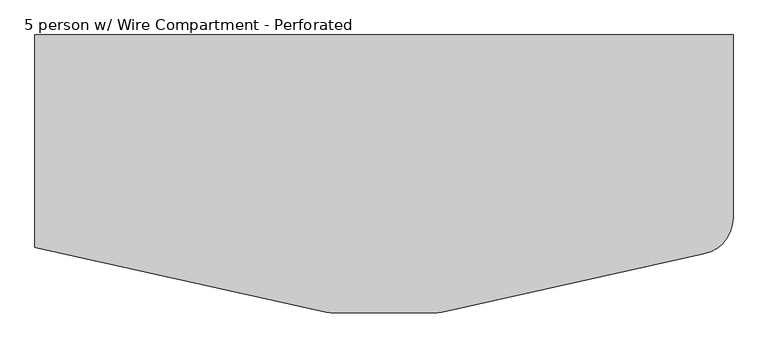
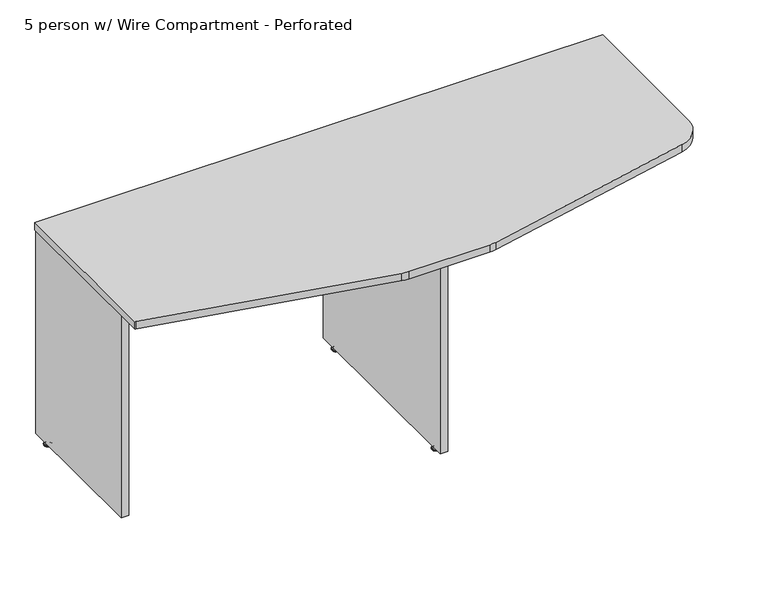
"""IFC4 building model written with IfcOpenShell, lengths in millimetres: furniture geometry, Nova Solutions - Collaboration Table - Boat_4-6 person : 5 person w/ Wire Compartment - Perforated."""

import ifcopenshell
import ifcopenshell.guid

model = None  # the IFC model being written
_history = None  # IfcOwnerHistory: only IFC2X3 demands one
_inside = {}  # id of a spatial element -> (the spatial element, [elements in it])
_under = {}  # id of a project, library or spatial element -> (it, [spatial elements below it])
_declared = {}  # id of a project -> (the project, [libraries it declares])
_typed = {}  # id of a type object -> (the type object, [elements of that type])
_made_of = {}  # id of a material, layer set ... -> (it, [elements and type objects made of it])


def new_model(schema):
    """Start an empty IFC model of exactly this schema.

    Asked for "IFC4X3", IfcOpenShell would pick the latest addendum, in which some entities
    have other attributes; the version numbers below select the first issue.
    IFC2X3 requires an IfcOwnerHistory on every rooted entity: one is made here for all.
    """
    global model, _history
    if schema == "IFC4X3":
        model = ifcopenshell.file(schema_version=(4, 3, 0, 0))
    else:
        model = ifcopenshell.file(schema=schema)
    _inside.clear()
    _under.clear()
    _declared.clear()
    _typed.clear()
    _made_of.clear()
    _history = None
    if model.schema == "IFC2X3":
        org = make("IfcOrganization", Name="unknown")
        user = make(
            "IfcPersonAndOrganization",
            ThePerson=make("IfcPerson", FamilyName="unknown"),
            TheOrganization=org,
        )
        app = make(
            "IfcApplication",
            ApplicationDeveloper=org,
            Version="unknown",
            ApplicationFullName="unknown",
            ApplicationIdentifier="unknown",
        )
        _history = make(
            "IfcOwnerHistory",
            OwningUser=user,
            OwningApplication=app,
            ChangeAction="ADDED",
            CreationDate=0,
        )
    return model


def make(cls, **values):
    """One entity of the class cls with the attributes given. An attribute that is None is left unset."""
    return model.create_entity(
        cls, **{name: value for name, value in values.items() if value is not None}
    )


def rooted(cls, **values):
    """An entity with a GlobalId (a new one), such as an element, a storey or a relation."""
    return make(cls, GlobalId=ifcopenshell.guid.new(), OwnerHistory=_history, **values)


def si_unit(unit_type, name, prefix=None):
    """IfcSIUnit, for example si_unit("LENGTHUNIT", "METRE", prefix="MILLI")."""
    return make("IfcSIUnit", UnitType=unit_type, Prefix=prefix, Name=name)


def assignment(units):
    """IfcUnitAssignment: the units of a project."""
    return None if units is None else make("IfcUnitAssignment", Units=units)


def point(xyz):
    """IfcCartesianPoint."""
    return None if xyz is None else make("IfcCartesianPoint", Coordinates=xyz)


def direction(xyz):
    """IfcDirection."""
    return None if xyz is None else make("IfcDirection", DirectionRatios=xyz)


def frame(location, z_axis=None, x_axis=None):
    """IfcAxis2Placement3D, a coordinate frame: its origin and axes. An axis left out is left unset."""
    return make(
        "IfcAxis2Placement3D",
        Location=point(location),
        Axis=direction(z_axis),
        RefDirection=direction(x_axis),
    )


def frame_2d(location, x_axis=None):
    """IfcAxis2Placement2D, a coordinate frame in the plane: its origin and x axis."""
    return make(
        "IfcAxis2Placement2D", Location=point(location), RefDirection=direction(x_axis)
    )


def origin():
    """The frame at (0, 0, 0) with its axes left unset."""
    return frame((0.0, 0.0, 0.0))


def place(relative_to, where):
    """IfcLocalPlacement: puts the frame where relative to a parent placement (None: the world)."""
    return make(
        "IfcLocalPlacement", PlacementRelTo=relative_to, RelativePlacement=where
    )


def context(
    kind, dimensions, precision=None, world=None, true_north=None, identifier=None
):
    """IfcGeometricRepresentationContext, for example the 3D "Model" context."""
    return make(
        "IfcGeometricRepresentationContext",
        ContextIdentifier=identifier,
        ContextType=kind,
        CoordinateSpaceDimension=dimensions,
        Precision=precision,
        WorldCoordinateSystem=world,
        TrueNorth=true_north,
    )


def project(units=None, contexts=None):
    """IfcProject with its units and contexts."""
    return rooted(
        "IfcProject",
        Name="project",
        RepresentationContexts=contexts,
        UnitsInContext=assignment(units),
    )


def spatial(cls, under=None, at=None, **own):
    """A site, building, storey or space (cls), placed at a placement, below another one or the project."""
    s = rooted(cls, ObjectPlacement=at, **own)
    if under is not None:
        _under.setdefault(under.id(), (under, []))[1].append(s)
    return s


def polyline(points):
    """IfcPolyline through the points."""
    return make("IfcPolyline", Points=[point(p) for p in points])


def circle_curve(where, radius):
    """IfcCircle in the frame where."""
    return make("IfcCircle", Position=where, Radius=radius)


def ellipse_curve(where, semi_axis1, semi_axis2):
    """IfcEllipse in the frame where."""
    return make(
        "IfcEllipse", Position=where, SemiAxis1=semi_axis1, SemiAxis2=semi_axis2
    )


def trimmed(basis, trim1, trim2, sense, master):
    """IfcTrimmedCurve: the piece of a basis curve between two trims."""
    return make(
        "IfcTrimmedCurve",
        BasisCurve=basis,
        Trim1=trim1,
        Trim2=trim2,
        SenseAgreement=sense,
        MasterRepresentation=master,
    )


def segment(curve, same_sense, transition):
    """IfcCompositeCurveSegment."""
    return make(
        "IfcCompositeCurveSegment",
        Transition=transition,
        SameSense=same_sense,
        ParentCurve=curve,
    )


def composite_curve(segments, self_intersect=None):
    """IfcCompositeCurve: segments joined end to end."""
    return make("IfcCompositeCurve", Segments=segments, SelfIntersect=self_intersect)


def outline(outer, holes=None, kind="AREA"):
    """IfcArbitraryClosedProfileDef: a profile drawn as a closed curve; with holes, ...WithVoids."""
    if holes is None:
        return make("IfcArbitraryClosedProfileDef", ProfileType=kind, OuterCurve=outer)
    return make(
        "IfcArbitraryProfileDefWithVoids",
        ProfileType=kind,
        OuterCurve=outer,
        InnerCurves=holes,
    )


def extrude(swept, where, along, depth):
    """IfcExtrudedAreaSolid: the profile swept, set in the frame where, extruded along a direction by depth."""
    return make(
        "IfcExtrudedAreaSolid",
        SweptArea=swept,
        Position=where,
        ExtrudedDirection=direction(along),
        Depth=depth,
    )


def shape(context_of_items, identifier, shape_type, items):
    """IfcShapeRepresentation: the items that make up one representation, for example the "Body"."""
    return make(
        "IfcShapeRepresentation",
        ContextOfItems=context_of_items,
        RepresentationIdentifier=identifier,
        RepresentationType=shape_type,
        Items=items,
    )


def source(mapping_origin, context_of_items, identifier, shape_type, items):
    """IfcRepresentationMap: a shape defined once, which mapped items show again and again."""
    return make(
        "IfcRepresentationMap",
        MappingOrigin=mapping_origin,
        MappedRepresentation=shape(context_of_items, identifier, shape_type, items),
    )


def transform(
    local_origin,
    x_axis=None,
    y_axis=None,
    z_axis=None,
    scale=None,
    scale2=None,
    scale3=None,
    uniform=True,
):
    """IfcCartesianTransformationOperator3D, or its non-uniform kind. x_axis, y_axis, z_axis: its Axis1, 2, 3."""
    if uniform:
        return make(
            "IfcCartesianTransformationOperator3D",
            Axis1=direction(x_axis),
            Axis2=direction(y_axis),
            LocalOrigin=point(local_origin),
            Scale=scale,
            Axis3=direction(z_axis),
        )
    return make(
        "IfcCartesianTransformationOperator3DnonUniform",
        Axis1=direction(x_axis),
        Axis2=direction(y_axis),
        LocalOrigin=point(local_origin),
        Scale=scale,
        Axis3=direction(z_axis),
        Scale2=scale2,
        Scale3=scale3,
    )


def mapped(mapping_source, mapping_target):
    """IfcMappedItem: shows the shape of a source again, moved by a transform."""
    return make(
        "IfcMappedItem", MappingSource=mapping_source, MappingTarget=mapping_target
    )


def made_of(thing, what):
    """Note that an element or type object is made of a material, layer set ...; save() writes the relation."""
    if what is not None:
        _made_of.setdefault(what.id(), (what, []))[1].append(thing)
    return thing


def element(
    cls,
    number,
    at=None,
    inside=None,
    cuts=None,
    type_object=None,
    material=None,
    context=None,
    identifier="Body",
    shape_type=None,
    held_by="IfcProductDefinitionShape",
    body=None,
    shapes=None,
    **own,
):
    """One element of the class cls, such as IfcWall. Its Tag is "e" and its number.

    at: its placement. inside: the storey or other place that contains it. cuts: it is an
    opening in that element (IfcRelVoidsElement). A single representation is given by context,
    identifier, shape_type and body (its items); several are given by shapes. held_by: the class
    of the entity that holds the representations. save() writes the other relations.
    """
    e = rooted(cls, Tag="e%d" % number, ObjectPlacement=at, **own)
    if body is not None:
        shapes = [shape(context, identifier, shape_type, body)]
    if shapes is not None:
        e.Representation = make(held_by, Representations=shapes)
    if inside is not None:
        _inside.setdefault(inside.id(), (inside, []))[1].append(e)
    if cuts is not None:
        rooted(
            "IfcRelVoidsElement", RelatingBuildingElement=cuts, RelatedOpeningElement=e
        )
    if type_object is not None:
        _typed.setdefault(type_object.id(), (type_object, []))[1].append(e)
    return made_of(e, material)


def aggregate(whole, parts):
    """IfcRelAggregates: a whole, such as a stair, and the parts it consists of."""
    return rooted("IfcRelAggregates", RelatingObject=whole, RelatedObjects=parts)


def save(model, path):
    """Write the relations noted so far, then the file.

    IfcRelAggregates (storeys below a building ...), IfcRelContainedInSpatialStructure (elements
    in a storey), IfcRelDefinesByType, IfcRelAssociatesMaterial and IfcRelDeclares: one each for
    every whole, place, type object, material and project.
    """
    for whole, parts in _under.values():
        aggregate(whole, parts)
    for where, things in _inside.values():
        rooted(
            "IfcRelContainedInSpatialStructure",
            RelatedElements=things,
            RelatingStructure=where,
        )
    for kind, things in _typed.values():
        rooted("IfcRelDefinesByType", RelatedObjects=things, RelatingType=kind)
    for what, things in _made_of.values():
        rooted("IfcRelAssociatesMaterial", RelatedObjects=things, RelatingMaterial=what)
    for by, libraries in _declared.values():
        rooted("IfcRelDeclares", RelatingContext=by, RelatedDefinitions=libraries)
    model.write(path)


def plane_surface(at):
    """IfcPlane: the flat surface through the origin of the frame at, square to its z axis."""
    return make("IfcPlane", Position=at)


def cylinder_surface(at, radius):
    """IfcCylindricalSurface: all points at the distance radius from the z axis of the frame at."""
    return make("IfcCylindricalSurface", Position=at, Radius=radius)


def revolved_surface(curve, axis_point, axis_direction):
    """IfcSurfaceOfRevolution: the curve turned about the line through axis_point along axis_direction."""
    return make(
        "IfcSurfaceOfRevolution",
        SweptCurve=make("IfcArbitraryOpenProfileDef", ProfileType="CURVE", Curve=curve),
        AxisPosition=make("IfcAxis1Placement", Location=point(axis_point), Axis=direction(axis_direction)),
    )


def advanced_brep(points, edges, surfaces, faces):
    """IfcAdvancedBrep: a solid bounded by faces that lie on surfaces and meet in shared edges.

    An edge is (start, end): straight between two places in points (the first is 0);
    or (start, end, curve); or (start, end, curve, False) where it runs against its curve.
    A face is (place in surfaces, loops), or (place, loops, False) where it looks against
    its surface's normal. A loop lists edges by number (the first is 1), with a minus sign
    where the edge is run from its end to its start. The first loop is the outer one.
    """
    corners = [point(p) for p in points]
    vertices = [make("IfcVertexPoint", VertexGeometry=c) for c in corners]
    made = []
    for start, end, *more in edges:
        made.append(
            make(
                "IfcEdgeCurve",
                EdgeStart=vertices[start],
                EdgeEnd=vertices[end],
                EdgeGeometry=more[0] if more else make("IfcPolyline", Points=[corners[start], corners[end]]),
                SameSense=more[1] if len(more) > 1 else True,
            )
        )
    hull = []
    for where, loops, *sense in faces:
        bounds = []
        for j, loop in enumerate(loops):
            ring = [make("IfcOrientedEdge", EdgeElement=made[abs(k) - 1], Orientation=k > 0) for k in loop]
            bounds.append(
                make(
                    "IfcFaceOuterBound" if j == 0 else "IfcFaceBound",
                    Bound=make("IfcEdgeLoop", EdgeList=ring),
                    Orientation=True,
                )
            )
        hull.append(make("IfcAdvancedFace", Bounds=bounds, FaceSurface=surfaces[where], SameSense=sense[0] if sense else True))
    return make("IfcAdvancedBrep", Outer=make("IfcClosedShell", CfsFaces=hull))


def furniture_5_person_w_wire_compartment_perforated_82e77ec8(model_context):
    return source(origin(), model_context, "Body", "SolidModel", [
        advanced_brep(
        [(-971.6776506, -50.4140625, 11.1125), (-965.0, -50.4140625, 11.1125), (-958.3223494, -50.4140625, 11.1125), (-971.6776506, -50.4140625, 9.525), (-958.3223494, -50.4140625, 9.525), (-976.8855135, -50.4140625, 4.7748687), (-953.1144865, -50.4140625, 4.7748687), (-977.7466506, -50.4140625, 3.989419), (-952.2533494, -50.4140625, 3.989419), (-977.7466506, -50.4140625, 3.175), (-952.2533494, -50.4140625, 3.175), (-976.8959119, -50.4140625, 0.0), (-953.1040881, -50.4140625, 0.0), (-965.0, -50.4140625, 0.0)],
        [
            (0, 1),
            (1, 2),
            (2, 0, circle_curve(frame((-965.0, -50.4140625, 11.1125), z_axis=(0.0, 0.0, 1.0), x_axis=(1.0, 0.0, 0.0)), 6.6776506)),
            (0, 2, circle_curve(frame((-965.0, -50.4140625, 11.1125), z_axis=(0.0, 0.0, 1.0), x_axis=(1.0, 0.0, 0.0)), 6.6776506)),
            (3, 0),
            (2, 4),
            (4, 3, circle_curve(frame((-965.0, -50.4140625, 9.525), z_axis=(0.0, 0.0, 1.0), x_axis=(1.0, 0.0, 0.0)), 6.6776506)),
            (3, 4, circle_curve(frame((-965.0, -50.4140625, 9.525), z_axis=(0.0, 0.0, 1.0), x_axis=(1.0, 0.0, 0.0)), 6.6776506)),
            (5, 3, circle_curve(frame((-977.9320627, -50.4140625, 11.1521822), z_axis=(0.0, -1.0, 0.0), x_axis=(1.0, 0.0, 0.0)), 6.462615)),
            (4, 6, circle_curve(frame((-952.0679373, -50.4140625, 11.1521822), z_axis=(0.0, -1.0, 0.0), x_axis=(-1.0, 0.0, 0.0)), 6.462615)),
            (6, 5, circle_curve(frame((-965.0, -50.4140625, 4.7748687), z_axis=(0.0, 0.0, 1.0), x_axis=(1.0, 0.0, 0.0)), 11.8855135)),
            (5, 6, circle_curve(frame((-965.0, -50.4140625, 4.7748687), z_axis=(0.0, 0.0, 1.0), x_axis=(1.0, 0.0, 0.0)), 11.8855135)),
            (7, 5, circle_curve(frame((-976.7124632, -50.4140625, 3.7203591), z_axis=(0.0, 1.0, 0.0), x_axis=(1.0, 0.0, 0.0)), 1.0686145)),
            (6, 8, circle_curve(frame((-953.2875368, -50.4140625, 3.7203591), z_axis=(0.0, 1.0, 0.0), x_axis=(-1.0, 0.0, 0.0)), 1.0686145)),
            (8, 7, circle_curve(frame((-965.0, -50.4140625, 3.989419), z_axis=(0.0, 0.0, 1.0), x_axis=(1.0, 0.0, 0.0)), 12.7466506)),
            (7, 8, circle_curve(frame((-965.0, -50.4140625, 3.989419), z_axis=(0.0, 0.0, 1.0), x_axis=(1.0, 0.0, 0.0)), 12.7466506)),
            (9, 7),
            (8, 10),
            (10, 9, circle_curve(frame((-965.0, -50.4140625, 3.175), z_axis=(0.0, 0.0, 1.0), x_axis=(1.0, 0.0, 0.0)), 12.7466506)),
            (9, 10, circle_curve(frame((-965.0, -50.4140625, 3.175), z_axis=(0.0, 0.0, 1.0), x_axis=(1.0, 0.0, 0.0)), 12.7466506)),
            (11, 9),
            (10, 12),
            (12, 11, circle_curve(frame((-965.0, -50.4140625, 0.0), z_axis=(0.0, 0.0, 1.0), x_axis=(1.0, 0.0, 0.0)), 11.8959119)),
            (11, 12, circle_curve(frame((-965.0, -50.4140625, 0.0), z_axis=(0.0, 0.0, 1.0), x_axis=(1.0, 0.0, 0.0)), 11.8959119)),
            (13, 11),
            (12, 13),
        ],
        [
            plane_surface(frame((-965.0, -50.4140625, 11.1125), z_axis=(0.0, 0.0, 1.0), x_axis=(1.0, 0.0, 0.0))),
            cylinder_surface(frame((-965.0, -50.4140625, 43.2095994), z_axis=(0.0, 0.0, -1.0), x_axis=(1.0, 0.0, 0.0)), 6.6776506),
            revolved_surface(trimmed(ellipse_curve(frame((-952.0679373, -50.4140625, 11.1521822), z_axis=(0.0, -1.0, 0.0), x_axis=(-1.0, 0.0, 0.0)), 6.462615, 6.462615), [point((-958.3223494, -50.4140625, 9.525))], [point((-953.1144865, -50.4140625, 4.7748687))], True, "CARTESIAN"), (-965.0, -50.4140625, 43.2095994), (0.0, 0.0, -1.0)),
            revolved_surface(trimmed(ellipse_curve(frame((-953.2875368, -50.4140625, 3.7203591), z_axis=(0.0, 1.0, 0.0), x_axis=(-1.0, 0.0, 0.0)), 1.0686145, 1.0686145), [point((-953.1144865, -50.4140625, 4.7748687))], [point((-952.2533494, -50.4140625, 3.989419))], True, "CARTESIAN"), (-965.0, -50.4140625, 43.2095994), (0.0, 0.0, -1.0)),
            cylinder_surface(frame((-965.0, -50.4140625, 43.2095994), z_axis=(0.0, 0.0, -1.0), x_axis=(1.0, 0.0, 0.0)), 12.7466506),
            revolved_surface(polyline([(-952.2533494, -50.4140625, 3.175), (-953.1040881, -50.4140625, 0.0)]), (-965.0, -50.4140625, 43.2095994), (0.0, 0.0, -1.0)),
            plane_surface(frame((-965.0, -50.4140625, 0.0), z_axis=(0.0, 0.0, -1.0), x_axis=(1.0, 0.0, 0.0))),
        ],
        [
            (0, [[1, 2, 3]]),
            (0, [[-2, -1, 4]]),
            (1, [[5, -3, 6, 7]]),
            (1, [[-6, -4, -5, 8]]),
            (2, [[9, -7, 10, 11]]),
            (2, [[-10, -8, -9, 12]]),
            (3, [[13, -11, 14, 15]]),
            (3, [[-14, -12, -13, 16]]),
            (4, [[17, -15, 18, 19]]),
            (4, [[-18, -16, -17, 20]]),
            (5, [[21, -19, 22, 23]]),
            (5, [[-22, -20, -21, 24]]),
            (6, [[25, -23, 26]]),
            (6, [[-26, -24, -25]]),
        ],
    ),
        extrude(outline(polyline([(-977.85, -1.4), (-952.15, -1.4), (-952.15, -498.0), (-977.85, -498.0), (-977.85, -1.4)])), frame((0.0, 0.0, 15.6), z_axis=(0.0, 0.0, 1.0), x_axis=(1.0, 0.0, 0.0)), (0.0, 0.0, 1.0), 720.7),
        advanced_brep(
        [(6.6776506, -631.3859375, 11.1125), (-6.6776506, -631.3859375, 11.1125), (0.0, -631.3859375, 11.1125), (6.6776506, -631.3859375, 9.525), (-6.6776506, -631.3859375, 9.525), (11.8855135, -631.3859375, 4.7748687), (-11.8855135, -631.3859375, 4.7748687), (12.7466506, -631.3859375, 3.989419), (-12.7466506, -631.3859375, 3.989419), (12.7466506, -631.3859375, 3.175), (-12.7466506, -631.3859375, 3.175), (11.8959119, -631.3859375, 0.0), (-11.8959119, -631.3859375, 0.0), (0.0, -631.3859375, 0.0)],
        [
            (0, 1, circle_curve(frame((0.0, -631.3859375, 11.1125), z_axis=(0.0, 0.0, 1.0), x_axis=(-1.0, 0.0, 0.0)), 6.6776506)),
            (1, 2),
            (2, 0),
            (1, 0, circle_curve(frame((0.0, -631.3859375, 11.1125), z_axis=(0.0, 0.0, 1.0), x_axis=(-1.0, 0.0, 0.0)), 6.6776506)),
            (3, 4, circle_curve(frame((0.0, -631.3859375, 9.525), z_axis=(0.0, 0.0, 1.0), x_axis=(-1.0, 0.0, 0.0)), 6.6776506)),
            (4, 1),
            (0, 3),
            (4, 3, circle_curve(frame((0.0, -631.3859375, 9.525), z_axis=(0.0, 0.0, 1.0), x_axis=(-1.0, 0.0, 0.0)), 6.6776506)),
            (5, 6, circle_curve(frame((0.0, -631.3859375, 4.7748687), z_axis=(0.0, 0.0, 1.0), x_axis=(-1.0, 0.0, 0.0)), 11.8855135)),
            (6, 4, circle_curve(frame((-12.9320627, -631.3859375, 11.1521822), z_axis=(0.0, -1.0, 0.0), x_axis=(1.0, 0.0, 0.0)), 6.462615)),
            (3, 5, circle_curve(frame((12.9320627, -631.3859375, 11.1521822), z_axis=(0.0, -1.0, 0.0), x_axis=(-1.0, 0.0, 0.0)), 6.462615)),
            (6, 5, circle_curve(frame((0.0, -631.3859375, 4.7748687), z_axis=(0.0, 0.0, 1.0), x_axis=(-1.0, 0.0, 0.0)), 11.8855135)),
            (7, 8, circle_curve(frame((0.0, -631.3859375, 3.989419), z_axis=(0.0, 0.0, 1.0), x_axis=(-1.0, 0.0, 0.0)), 12.7466506)),
            (8, 6, circle_curve(frame((-11.7124632, -631.3859375, 3.7203591), z_axis=(0.0, 1.0, 0.0), x_axis=(1.0, 0.0, 0.0)), 1.0686145)),
            (5, 7, circle_curve(frame((11.7124632, -631.3859375, 3.7203591), z_axis=(0.0, 1.0, 0.0), x_axis=(-1.0, 0.0, 0.0)), 1.0686145)),
            (8, 7, circle_curve(frame((0.0, -631.3859375, 3.989419), z_axis=(0.0, 0.0, 1.0), x_axis=(-1.0, 0.0, 0.0)), 12.7466506)),
            (9, 10, circle_curve(frame((0.0, -631.3859375, 3.175), z_axis=(0.0, 0.0, 1.0), x_axis=(-1.0, 0.0, 0.0)), 12.7466506)),
            (10, 8),
            (7, 9),
            (10, 9, circle_curve(frame((0.0, -631.3859375, 3.175), z_axis=(0.0, 0.0, 1.0), x_axis=(-1.0, 0.0, 0.0)), 12.7466506)),
            (11, 12, circle_curve(frame((0.0, -631.3859375, 0.0), z_axis=(0.0, 0.0, 1.0), x_axis=(-1.0, 0.0, 0.0)), 11.8959119)),
            (12, 10),
            (9, 11),
            (12, 11, circle_curve(frame((0.0, -631.3859375, 0.0), z_axis=(0.0, 0.0, 1.0), x_axis=(-1.0, 0.0, 0.0)), 11.8959119)),
            (13, 12),
            (11, 13),
        ],
        [
            plane_surface(frame((0.0, -631.3859375, 11.1125), z_axis=(0.0, 0.0, 1.0), x_axis=(-1.0, 0.0, 0.0))),
            cylinder_surface(frame((0.0, -631.3859375, 43.2095994), z_axis=(0.0, 0.0, -1.0), x_axis=(-1.0, 0.0, 0.0)), 6.6776506),
            revolved_surface(trimmed(ellipse_curve(frame((-12.9320627, -631.3859375, 11.1521822), z_axis=(0.0, 1.0, 0.0), x_axis=(1.0, 0.0, 0.0)), 6.462615, 6.462615), [point((-6.6776506, -631.3859375, 9.525))], [point((-11.8855135, -631.3859375, 4.7748687))], True, "CARTESIAN"), (0.0, -631.3859375, 43.2095994), (0.0, 0.0, -1.0)),
            revolved_surface(trimmed(ellipse_curve(frame((-11.7124632, -631.3859375, 3.7203591), z_axis=(0.0, -1.0, 0.0), x_axis=(1.0, 0.0, 0.0)), 1.0686145, 1.0686145), [point((-11.8855135, -631.3859375, 4.7748687))], [point((-12.7466506, -631.3859375, 3.989419))], True, "CARTESIAN"), (0.0, -631.3859375, 43.2095994), (0.0, 0.0, -1.0)),
            cylinder_surface(frame((0.0, -631.3859375, 43.2095994), z_axis=(0.0, 0.0, -1.0), x_axis=(-1.0, 0.0, 0.0)), 12.7466506),
            revolved_surface(polyline([(-12.7466506, -631.3859375, 3.175), (-11.8959119, -631.3859375, 0.0)]), (0.0, -631.3859375, 43.2095994), (0.0, 0.0, -1.0)),
            plane_surface(frame((0.0, -631.3859375, 0.0), z_axis=(0.0, 0.0, -1.0), x_axis=(-1.0, 0.0, 0.0))),
        ],
        [
            (0, [[1, 2, 3]]),
            (0, [[4, -3, -2]]),
            (1, [[5, 6, -1, 7]]),
            (1, [[8, -7, -4, -6]]),
            (2, [[9, 10, -5, 11]]),
            (2, [[12, -11, -8, -10]]),
            (3, [[13, 14, -9, 15]]),
            (3, [[16, -15, -12, -14]]),
            (4, [[17, 18, -13, 19]]),
            (4, [[20, -19, -16, -18]]),
            (5, [[21, 22, -17, 23]]),
            (5, [[24, -23, -20, -22]]),
            (6, [[25, -21, 26]]),
            (6, [[-26, -24, -25]]),
        ],
    ),
        advanced_brep(
        [(6.6776506, -50.4140625, 11.1125), (-6.6776506, -50.4140625, 11.1125), (0.0, -50.4140625, 11.1125), (6.6776506, -50.4140625, 9.525), (-6.6776506, -50.4140625, 9.525), (11.8855135, -50.4140625, 4.7748687), (-11.8855135, -50.4140625, 4.7748687), (12.7466506, -50.4140625, 3.989419), (-12.7466506, -50.4140625, 3.989419), (12.7466506, -50.4140625, 3.175), (-12.7466506, -50.4140625, 3.175), (11.8959119, -50.4140625, 0.0), (-11.8959119, -50.4140625, 0.0), (0.0, -50.4140625, 0.0)],
        [
            (0, 1, circle_curve(frame((0.0, -50.4140625, 11.1125), z_axis=(0.0, 0.0, 1.0), x_axis=(-1.0, 0.0, 0.0)), 6.6776506)),
            (1, 2),
            (2, 0),
            (1, 0, circle_curve(frame((0.0, -50.4140625, 11.1125), z_axis=(0.0, 0.0, 1.0), x_axis=(-1.0, 0.0, 0.0)), 6.6776506)),
            (3, 4, circle_curve(frame((0.0, -50.4140625, 9.525), z_axis=(0.0, 0.0, 1.0), x_axis=(-1.0, 0.0, 0.0)), 6.6776506)),
            (4, 1),
            (0, 3),
            (4, 3, circle_curve(frame((0.0, -50.4140625, 9.525), z_axis=(0.0, 0.0, 1.0), x_axis=(-1.0, 0.0, 0.0)), 6.6776506)),
            (5, 6, circle_curve(frame((0.0, -50.4140625, 4.7748687), z_axis=(0.0, 0.0, 1.0), x_axis=(-1.0, 0.0, 0.0)), 11.8855135)),
            (6, 4, circle_curve(frame((-12.9320627, -50.4140625, 11.1521822), z_axis=(0.0, -1.0, 0.0), x_axis=(1.0, 0.0, 0.0)), 6.462615)),
            (3, 5, circle_curve(frame((12.9320627, -50.4140625, 11.1521822), z_axis=(0.0, -1.0, 0.0), x_axis=(-1.0, 0.0, 0.0)), 6.462615)),
            (6, 5, circle_curve(frame((0.0, -50.4140625, 4.7748687), z_axis=(0.0, 0.0, 1.0), x_axis=(-1.0, 0.0, 0.0)), 11.8855135)),
            (7, 8, circle_curve(frame((0.0, -50.4140625, 3.989419), z_axis=(0.0, 0.0, 1.0), x_axis=(-1.0, 0.0, 0.0)), 12.7466506)),
            (8, 6, circle_curve(frame((-11.7124632, -50.4140625, 3.7203591), z_axis=(0.0, 1.0, 0.0), x_axis=(1.0, 0.0, 0.0)), 1.0686145)),
            (5, 7, circle_curve(frame((11.7124632, -50.4140625, 3.7203591), z_axis=(0.0, 1.0, 0.0), x_axis=(-1.0, 0.0, 0.0)), 1.0686145)),
            (8, 7, circle_curve(frame((0.0, -50.4140625, 3.989419), z_axis=(0.0, 0.0, 1.0), x_axis=(-1.0, 0.0, 0.0)), 12.7466506)),
            (9, 10, circle_curve(frame((0.0, -50.4140625, 3.175), z_axis=(0.0, 0.0, 1.0), x_axis=(-1.0, 0.0, 0.0)), 12.7466506)),
            (10, 8),
            (7, 9),
            (10, 9, circle_curve(frame((0.0, -50.4140625, 3.175), z_axis=(0.0, 0.0, 1.0), x_axis=(-1.0, 0.0, 0.0)), 12.7466506)),
            (11, 12, circle_curve(frame((0.0, -50.4140625, 0.0), z_axis=(0.0, 0.0, 1.0), x_axis=(-1.0, 0.0, 0.0)), 11.8959119)),
            (12, 10),
            (9, 11),
            (12, 11, circle_curve(frame((0.0, -50.4140625, 0.0), z_axis=(0.0, 0.0, 1.0), x_axis=(-1.0, 0.0, 0.0)), 11.8959119)),
            (13, 12),
            (11, 13),
        ],
        [
            plane_surface(frame((0.0, -50.4140625, 11.1125), z_axis=(0.0, 0.0, 1.0), x_axis=(-1.0, 0.0, 0.0))),
            cylinder_surface(frame((0.0, -50.4140625, 43.2095994), z_axis=(0.0, 0.0, -1.0), x_axis=(-1.0, 0.0, 0.0)), 6.6776506),
            revolved_surface(trimmed(ellipse_curve(frame((-12.9320627, -50.4140625, 11.1521822), z_axis=(0.0, 1.0, 0.0), x_axis=(1.0, 0.0, 0.0)), 6.462615, 6.462615), [point((-6.6776506, -50.4140625, 9.525))], [point((-11.8855135, -50.4140625, 4.7748687))], True, "CARTESIAN"), (0.0, -50.4140625, 43.2095994), (0.0, 0.0, -1.0)),
            revolved_surface(trimmed(ellipse_curve(frame((-11.7124632, -50.4140625, 3.7203591), z_axis=(0.0, -1.0, 0.0), x_axis=(1.0, 0.0, 0.0)), 1.0686145, 1.0686145), [point((-11.8855135, -50.4140625, 4.7748687))], [point((-12.7466506, -50.4140625, 3.989419))], True, "CARTESIAN"), (0.0, -50.4140625, 43.2095994), (0.0, 0.0, -1.0)),
            cylinder_surface(frame((0.0, -50.4140625, 43.2095994), z_axis=(0.0, 0.0, -1.0), x_axis=(-1.0, 0.0, 0.0)), 12.7466506),
            revolved_surface(polyline([(-12.7466506, -50.4140625, 3.175), (-11.8959119, -50.4140625, 0.0)]), (0.0, -50.4140625, 43.2095994), (0.0, 0.0, -1.0)),
            plane_surface(frame((0.0, -50.4140625, 0.0), z_axis=(0.0, 0.0, -1.0), x_axis=(-1.0, 0.0, 0.0))),
        ],
        [
            (0, [[1, 2, 3]]),
            (0, [[4, -3, -2]]),
            (1, [[5, 6, -1, 7]]),
            (1, [[8, -7, -4, -6]]),
            (2, [[9, 10, -5, 11]]),
            (2, [[12, -11, -8, -10]]),
            (3, [[13, 14, -9, 15]]),
            (3, [[16, -15, -12, -14]]),
            (4, [[17, 18, -13, 19]]),
            (4, [[20, -19, -16, -18]]),
            (5, [[21, 22, -17, 23]]),
            (5, [[24, -23, -20, -22]]),
            (6, [[25, -21, 26]]),
            (6, [[-26, -24, -25]]),
        ],
    ),
        extrude(outline(polyline([(12.85, -1.4), (12.85, -680.4), (-12.85, -680.4), (-12.85, -1.4), (12.85, -1.4)])), frame((0.0, 0.0, 15.6), z_axis=(0.0, 0.0, 1.0), x_axis=(1.0, 0.0, 0.0)), (0.0, 0.0, 1.0), 720.7),
        extrude(outline(composite_curve([segment(polyline([(-185.1130641, -755.5916743), (-975.8402648, -580.2916743)]), True, "CONTINUOUS"), segment(trimmed(circle_curve(frame_2d((-953.85, -481.1)), 101.6), [point((-975.8402648, -580.2916743))], [point((-979.2498676, -579.4738112))], False, "CARTESIAN"), True, "CONTINUOUS"), segment(polyline([(-979.2498676, -579.4738112), (-979.2498676, 0.0), (924.25, 0.0), (924.25, -497.9736747)]), True, "CONTINUOUS"), segment(trimmed(circle_curve(frame_2d((822.65, -497.9736747)), 101.6), [point((924.25, -497.9736747))], [point((844.6402648, -597.165349))], False, "CARTESIAN"), True, "CONTINUOUS"), segment(polyline([(844.6402648, -597.165349), (130.025292, -755.5916743)]), True, "CONTINUOUS"), segment(trimmed(circle_curve(frame_2d((108.0350272, -656.4)), 101.6), [point((130.025292, -755.5916743))], [point((108.0350272, -758.0))], False, "CARTESIAN"), True, "CONTINUOUS"), segment(polyline([(108.0350272, -758.0), (-163.1227993, -758.0)]), True, "CONTINUOUS"), segment(trimmed(circle_curve(frame_2d((-163.1227993, -656.4)), 101.6), [point((-163.1227993, -758.0))], [point((-185.1130641, -755.5916743))], False, "CARTESIAN"), True, "CONTINUOUS")], self_intersect=False)), frame((0.0, 0.0, 736.3), z_axis=(0.0, 0.0, 1.0), x_axis=(1.0, 0.0, 0.0)), (0.0, 0.0, 1.0), 25.7),
    ])


if __name__ == "__main__":
    model = new_model("IFC4")
    model_context = context("Model", 3, world=origin())
    ifc_project = project(units=[si_unit("LENGTHUNIT", "METRE", prefix="MILLI")], contexts=[model_context])
    site = spatial("IfcSite", under=ifc_project)
    building = spatial("IfcBuilding", under=site)
    placement = place(None, origin())
    furniture_5_person_w_wire_compartment_perforated_shape = furniture_5_person_w_wire_compartment_perforated_82e77ec8(model_context)
    element("IfcFurniture", 1, ObjectType="Nova Solutions - Collaboration Table - Boat_4-6 person : 5 person w/ Wire Compartment - Perforated", at=placement, inside=building, context=model_context, shape_type="MappedRepresentation", body=[
        mapped(furniture_5_person_w_wire_compartment_perforated_shape, transform((0.0, 0.0, 0.0), x_axis=(1.0, 0.0, 0.0), y_axis=(0.0, 1.0, 0.0), z_axis=(0.0, 0.0, 1.0))),
    ])
    save(model, "model.ifc")
